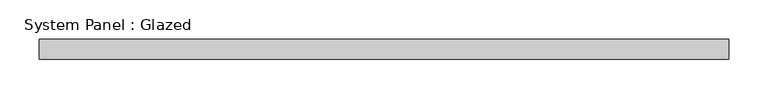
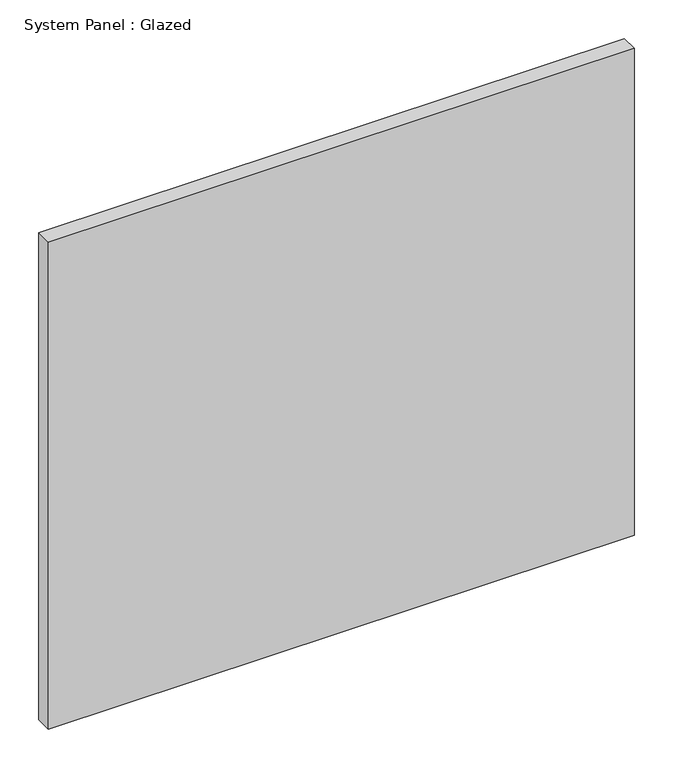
"""IFC4 building model written with IfcOpenShell, lengths in millimetres: plate geometry, System Panel : Glazed."""

import ifcopenshell
import ifcopenshell.guid

model = None  # the IFC model being written
_history = None  # IfcOwnerHistory: only IFC2X3 demands one
_inside = {}  # id of a spatial element -> (the spatial element, [elements in it])
_under = {}  # id of a project, library or spatial element -> (it, [spatial elements below it])
_declared = {}  # id of a project -> (the project, [libraries it declares])
_typed = {}  # id of a type object -> (the type object, [elements of that type])
_made_of = {}  # id of a material, layer set ... -> (it, [elements and type objects made of it])


def new_model(schema):
    """Start an empty IFC model of exactly this schema.

    Asked for "IFC4X3", IfcOpenShell would pick the latest addendum, in which some entities
    have other attributes; the version numbers below select the first issue.
    IFC2X3 requires an IfcOwnerHistory on every rooted entity: one is made here for all.
    """
    global model, _history
    if schema == "IFC4X3":
        model = ifcopenshell.file(schema_version=(4, 3, 0, 0))
    else:
        model = ifcopenshell.file(schema=schema)
    _inside.clear()
    _under.clear()
    _declared.clear()
    _typed.clear()
    _made_of.clear()
    _history = None
    if model.schema == "IFC2X3":
        org = make("IfcOrganization", Name="unknown")
        user = make(
            "IfcPersonAndOrganization",
            ThePerson=make("IfcPerson", FamilyName="unknown"),
            TheOrganization=org,
        )
        app = make(
            "IfcApplication",
            ApplicationDeveloper=org,
            Version="unknown",
            ApplicationFullName="unknown",
            ApplicationIdentifier="unknown",
        )
        _history = make(
            "IfcOwnerHistory",
            OwningUser=user,
            OwningApplication=app,
            ChangeAction="ADDED",
            CreationDate=0,
        )
    return model


def make(cls, **values):
    """One entity of the class cls with the attributes given. An attribute that is None is left unset."""
    return model.create_entity(
        cls, **{name: value for name, value in values.items() if value is not None}
    )


def rooted(cls, **values):
    """An entity with a GlobalId (a new one), such as an element, a storey or a relation."""
    return make(cls, GlobalId=ifcopenshell.guid.new(), OwnerHistory=_history, **values)


def si_unit(unit_type, name, prefix=None):
    """IfcSIUnit, for example si_unit("LENGTHUNIT", "METRE", prefix="MILLI")."""
    return make("IfcSIUnit", UnitType=unit_type, Prefix=prefix, Name=name)


def assignment(units):
    """IfcUnitAssignment: the units of a project."""
    return None if units is None else make("IfcUnitAssignment", Units=units)


def point(xyz):
    """IfcCartesianPoint."""
    return None if xyz is None else make("IfcCartesianPoint", Coordinates=xyz)


def direction(xyz):
    """IfcDirection."""
    return None if xyz is None else make("IfcDirection", DirectionRatios=xyz)


def frame(location, z_axis=None, x_axis=None):
    """IfcAxis2Placement3D, a coordinate frame: its origin and axes. An axis left out is left unset."""
    return make(
        "IfcAxis2Placement3D",
        Location=point(location),
        Axis=direction(z_axis),
        RefDirection=direction(x_axis),
    )


def origin():
    """The frame at (0, 0, 0) with its axes left unset."""
    return frame((0.0, 0.0, 0.0))


def origin_with_axes():
    """The frame at (0, 0, 0) with the z axis (0, 0, 1) and the x axis (1, 0, 0) written out."""
    return frame((0.0, 0.0, 0.0), z_axis=(0.0, 0.0, 1.0), x_axis=(1.0, 0.0, 0.0))


def place(relative_to, where):
    """IfcLocalPlacement: puts the frame where relative to a parent placement (None: the world)."""
    return make(
        "IfcLocalPlacement", PlacementRelTo=relative_to, RelativePlacement=where
    )


def context(
    kind, dimensions, precision=None, world=None, true_north=None, identifier=None
):
    """IfcGeometricRepresentationContext, for example the 3D "Model" context."""
    return make(
        "IfcGeometricRepresentationContext",
        ContextIdentifier=identifier,
        ContextType=kind,
        CoordinateSpaceDimension=dimensions,
        Precision=precision,
        WorldCoordinateSystem=world,
        TrueNorth=true_north,
    )


def project(units=None, contexts=None):
    """IfcProject with its units and contexts."""
    return rooted(
        "IfcProject",
        Name="project",
        RepresentationContexts=contexts,
        UnitsInContext=assignment(units),
    )


def spatial(cls, under=None, at=None, **own):
    """A site, building, storey or space (cls), placed at a placement, below another one or the project."""
    s = rooted(cls, ObjectPlacement=at, **own)
    if under is not None:
        _under.setdefault(under.id(), (under, []))[1].append(s)
    return s


def polyline(points):
    """IfcPolyline through the points."""
    return make("IfcPolyline", Points=[point(p) for p in points])


def outline(outer, holes=None, kind="AREA"):
    """IfcArbitraryClosedProfileDef: a profile drawn as a closed curve; with holes, ...WithVoids."""
    if holes is None:
        return make("IfcArbitraryClosedProfileDef", ProfileType=kind, OuterCurve=outer)
    return make(
        "IfcArbitraryProfileDefWithVoids",
        ProfileType=kind,
        OuterCurve=outer,
        InnerCurves=holes,
    )


def extrude(swept, where, along, depth):
    """IfcExtrudedAreaSolid: the profile swept, set in the frame where, extruded along a direction by depth."""
    return make(
        "IfcExtrudedAreaSolid",
        SweptArea=swept,
        Position=where,
        ExtrudedDirection=direction(along),
        Depth=depth,
    )


def shape(context_of_items, identifier, shape_type, items):
    """IfcShapeRepresentation: the items that make up one representation, for example the "Body"."""
    return make(
        "IfcShapeRepresentation",
        ContextOfItems=context_of_items,
        RepresentationIdentifier=identifier,
        RepresentationType=shape_type,
        Items=items,
    )


def source(mapping_origin, context_of_items, identifier, shape_type, items):
    """IfcRepresentationMap: a shape defined once, which mapped items show again and again."""
    return make(
        "IfcRepresentationMap",
        MappingOrigin=mapping_origin,
        MappedRepresentation=shape(context_of_items, identifier, shape_type, items),
    )


def transform(
    local_origin,
    x_axis=None,
    y_axis=None,
    z_axis=None,
    scale=None,
    scale2=None,
    scale3=None,
    uniform=True,
):
    """IfcCartesianTransformationOperator3D, or its non-uniform kind. x_axis, y_axis, z_axis: its Axis1, 2, 3."""
    if uniform:
        return make(
            "IfcCartesianTransformationOperator3D",
            Axis1=direction(x_axis),
            Axis2=direction(y_axis),
            LocalOrigin=point(local_origin),
            Scale=scale,
            Axis3=direction(z_axis),
        )
    return make(
        "IfcCartesianTransformationOperator3DnonUniform",
        Axis1=direction(x_axis),
        Axis2=direction(y_axis),
        LocalOrigin=point(local_origin),
        Scale=scale,
        Axis3=direction(z_axis),
        Scale2=scale2,
        Scale3=scale3,
    )


def mapped(mapping_source, mapping_target):
    """IfcMappedItem: shows the shape of a source again, moved by a transform."""
    return make(
        "IfcMappedItem", MappingSource=mapping_source, MappingTarget=mapping_target
    )


def made_of(thing, what):
    """Note that an element or type object is made of a material, layer set ...; save() writes the relation."""
    if what is not None:
        _made_of.setdefault(what.id(), (what, []))[1].append(thing)
    return thing


def element(
    cls,
    number,
    at=None,
    inside=None,
    cuts=None,
    type_object=None,
    material=None,
    context=None,
    identifier="Body",
    shape_type=None,
    held_by="IfcProductDefinitionShape",
    body=None,
    shapes=None,
    **own,
):
    """One element of the class cls, such as IfcWall. Its Tag is "e" and its number.

    at: its placement. inside: the storey or other place that contains it. cuts: it is an
    opening in that element (IfcRelVoidsElement). A single representation is given by context,
    identifier, shape_type and body (its items); several are given by shapes. held_by: the class
    of the entity that holds the representations. save() writes the other relations.
    """
    e = rooted(cls, Tag="e%d" % number, ObjectPlacement=at, **own)
    if body is not None:
        shapes = [shape(context, identifier, shape_type, body)]
    if shapes is not None:
        e.Representation = make(held_by, Representations=shapes)
    if inside is not None:
        _inside.setdefault(inside.id(), (inside, []))[1].append(e)
    if cuts is not None:
        rooted(
            "IfcRelVoidsElement", RelatingBuildingElement=cuts, RelatedOpeningElement=e
        )
    if type_object is not None:
        _typed.setdefault(type_object.id(), (type_object, []))[1].append(e)
    return made_of(e, material)


def aggregate(whole, parts):
    """IfcRelAggregates: a whole, such as a stair, and the parts it consists of."""
    return rooted("IfcRelAggregates", RelatingObject=whole, RelatedObjects=parts)


def save(model, path):
    """Write the relations noted so far, then the file.

    IfcRelAggregates (storeys below a building ...), IfcRelContainedInSpatialStructure (elements
    in a storey), IfcRelDefinesByType, IfcRelAssociatesMaterial and IfcRelDeclares: one each for
    every whole, place, type object, material and project.
    """
    for whole, parts in _under.values():
        aggregate(whole, parts)
    for where, things in _inside.values():
        rooted(
            "IfcRelContainedInSpatialStructure",
            RelatedElements=things,
            RelatingStructure=where,
        )
    for kind, things in _typed.values():
        rooted("IfcRelDefinesByType", RelatedObjects=things, RelatingType=kind)
    for what, things in _made_of.values():
        rooted("IfcRelAssociatesMaterial", RelatedObjects=things, RelatingMaterial=what)
    for by, libraries in _declared.values():
        rooted("IfcRelDeclares", RelatingContext=by, RelatedDefinitions=libraries)
    model.write(path)


def system_panel_glazed_9c336c3c(model_context):
    return source(origin(), model_context, "Body", "SweptSolid", [
        extrude(outline(polyline([(438.15, 19.05), (-438.15, 19.05), (-438.15, 44.45), (438.15, 44.45), (438.15, 19.05)])), origin_with_axes(), (0.0, 0.0, 1.0), 770.6690025),
    ])


if __name__ == "__main__":
    model = new_model("IFC4")
    model_context = context("Model", 3, world=origin())
    ifc_project = project(units=[si_unit("LENGTHUNIT", "METRE", prefix="MILLI")], contexts=[model_context])
    site = spatial("IfcSite", under=ifc_project)
    building = spatial("IfcBuilding", under=site)
    placement = place(None, origin())
    system_panel_glazed_shape = system_panel_glazed_9c336c3c(model_context)
    element("IfcPlate", 1, ObjectType="System Panel : Glazed", at=placement, inside=building, context=model_context, shape_type="MappedRepresentation", body=[
        mapped(system_panel_glazed_shape, transform((0.0, 0.0, 0.0), x_axis=(1.0, 0.0, 0.0), y_axis=(0.0, 1.0, 0.0), z_axis=(0.0, 0.0, 1.0))),
    ])
    save(model, "model.ifc")
